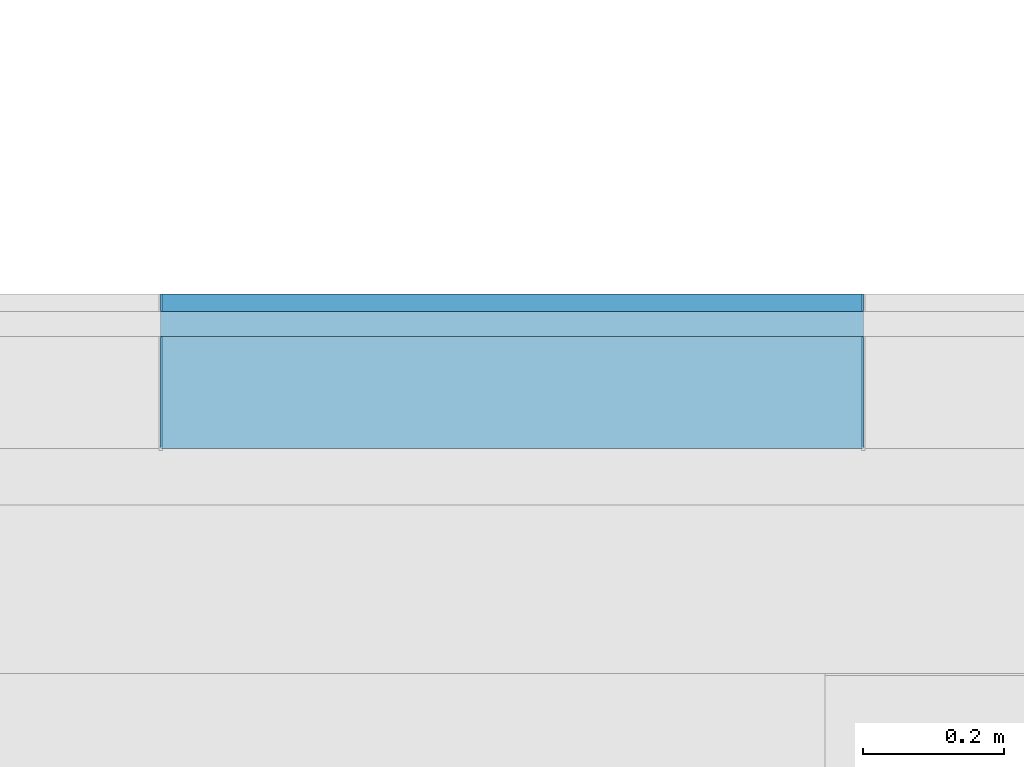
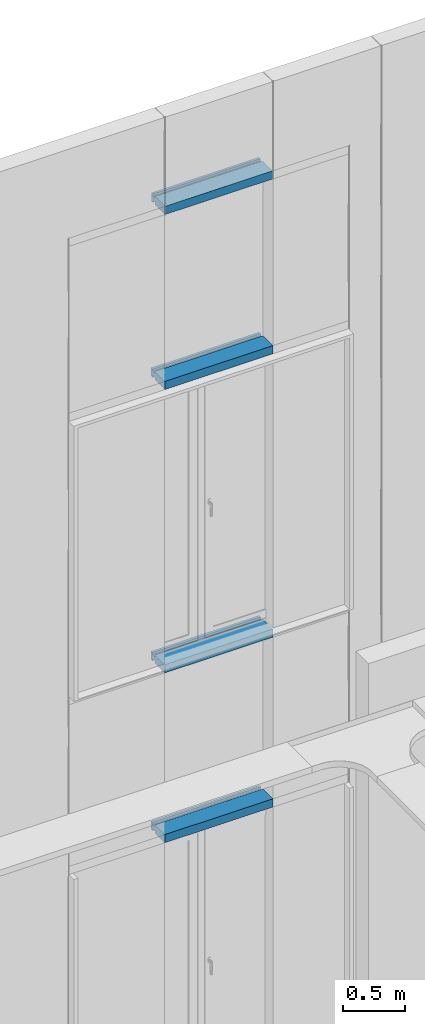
# One storey, part 86 of 302: 4 members, 1 element without a shape of its own.
"""IFC2X3 building model written with IfcOpenShell, lengths in metres."""

from ifc_helpers import new_model, entity, si_unit, converted_unit, derived_unit, direction, frame, origin, place, context, subcontext, project, spatial, polyline, outline, extrude, source, transform, mapped, material, type_object, type_shapes, element, aggregate, save


model = new_model("IFC2X3")

# Units and contexts
model_context = context("Model", 3, precision=1e-05, world=origin(), true_north=direction((6.12303176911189e-17, 1.0)))
body_context = subcontext(model_context, "Body", "Model", "MODEL_VIEW")
ifc_project = project(units=[si_unit("LENGTHUNIT", "METRE"), si_unit("AREAUNIT", "SQUARE_METRE"), si_unit("VOLUMEUNIT", "CUBIC_METRE"), converted_unit("PLANEANGLEUNIT", "DEGREE", entity("IfcRatioMeasure", 0.0174532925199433), si_unit("PLANEANGLEUNIT", "RADIAN"), dimensions=[0, 0, 0, 0, 0, 0, 0]), si_unit("MASSUNIT", "GRAM", prefix="KILO"), derived_unit("MASSDENSITYUNIT", [(si_unit("MASSUNIT", "GRAM", prefix="KILO"), 1), (si_unit("LENGTHUNIT", "METRE"), -3)]), derived_unit("MOMENTOFINERTIAUNIT", [(si_unit("LENGTHUNIT", "METRE"), 4)]), si_unit("TIMEUNIT", "SECOND"), si_unit("FREQUENCYUNIT", "HERTZ"), si_unit("THERMODYNAMICTEMPERATUREUNIT", "DEGREE_CELSIUS"), derived_unit("THERMALTRANSMITTANCEUNIT", [(si_unit("MASSUNIT", "GRAM", prefix="KILO"), 1), (si_unit("THERMODYNAMICTEMPERATUREUNIT", "KELVIN"), -1), (si_unit("TIMEUNIT", "SECOND"), -3)]), derived_unit("VOLUMETRICFLOWRATEUNIT", [(si_unit("LENGTHUNIT", "METRE"), 3), (si_unit("TIMEUNIT", "SECOND"), -1)]), si_unit("ELECTRICCURRENTUNIT", "AMPERE"), si_unit("ELECTRICVOLTAGEUNIT", "VOLT"), si_unit("POWERUNIT", "WATT"), si_unit("FORCEUNIT", "NEWTON", prefix="KILO"), si_unit("ILLUMINANCEUNIT", "LUX"), si_unit("LUMINOUSFLUXUNIT", "LUMEN"), si_unit("LUMINOUSINTENSITYUNIT", "CANDELA"), derived_unit("USERDEFINED", [(si_unit("MASSUNIT", "GRAM", prefix="KILO"), -1), (si_unit("LENGTHUNIT", "METRE"), -2), (si_unit("TIMEUNIT", "SECOND"), 3), (si_unit("LUMINOUSFLUXUNIT", "LUMEN"), 1)]), derived_unit("LINEARVELOCITYUNIT", [(si_unit("LENGTHUNIT", "METRE"), 1), (si_unit("TIMEUNIT", "SECOND"), -1)]), si_unit("PRESSUREUNIT", "PASCAL"), derived_unit("USERDEFINED", [(si_unit("LENGTHUNIT", "METRE"), -2), (si_unit("MASSUNIT", "GRAM", prefix="KILO"), 1), (si_unit("TIMEUNIT", "SECOND"), -2)]), derived_unit("LINEARFORCEUNIT", [(si_unit("MASSUNIT", "GRAM", prefix="KILO"), 1), (si_unit("LENGTHUNIT", "METRE"), 1), (si_unit("TIMEUNIT", "SECOND"), -2), (si_unit("LENGTHUNIT", "METRE"), -1)]), derived_unit("PLANARFORCEUNIT", [(si_unit("MASSUNIT", "GRAM", prefix="KILO"), 1), (si_unit("LENGTHUNIT", "METRE"), 1), (si_unit("TIMEUNIT", "SECOND"), -2), (si_unit("LENGTHUNIT", "METRE"), -2)])], contexts=[model_context])

# Site, building, storey
site_placement = place(None, origin())
site = spatial("IfcSite", under=ifc_project, at=site_placement, Name="Default", CompositionType="ELEMENT")
building_placement = place(site_placement, origin())
building = spatial("IfcBuilding", under=site, at=building_placement, CompositionType="ELEMENT")
storey_placement = place(building_placement, frame((0.0, 0.0, -1.3)))
storey = spatial("IfcBuildingStorey", under=building, at=storey_placement, Name="00_EG", CompositionType="ELEMENT", Elevation=-1.3)

# Curtain wall, members
curtain_wall_type = type_object("IfcCurtainWallType", Name="Fassade:Curtain Wall 1", PredefinedType="NOTDEFINED")
curtain_wall_placement = place(storey_placement, frame((0.0, 0.0, 1.3)))
curtain_wall = element("IfcCurtainWall", 1, at=curtain_wall_placement, inside=storey, type_object=curtain_wall_type, Name="Fassade:Curtain Wall 1", ObjectType="Fassade:Curtain Wall 1")
ifc_material = material(Name="Prepainted_Steel-ArcelorMittal_Construction_HAIRULTRA-35-CORAL-4309-[RAL_3000]")
member_type_1 = type_object("IfcMemberType", Name="Rectangular Mullion:Fassadenrahmen Typ 1", PredefinedType="MULLION", material=ifc_material)
shared_shape_1 = source(origin(), body_context, "Body", "SweptSolid", [
    extrude(outline(polyline([(-0.065, -0.04), (-0.04, -0.04), (-0.04, -0.02), (-0.00499999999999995, -0.02), (-0.00499999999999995, -0.04), (0.155, -0.04), (0.155, 0.04), (-0.00499999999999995, 0.04), (-0.00499999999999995, 0.02), (-0.04, 0.02), (-0.04, 0.04), (-0.065, 0.04), (-0.065, -0.04)])), frame((0.0, 0.155, -0.994999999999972), z_axis=(0.0, 0.0, 1.0), x_axis=(0.0, -1.0, 0.0)), (0.0, 0.0, 1.0), 0.99499999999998),
])
type_shapes(member_type_1, [shared_shape_1])
member_1_placement = place(storey_placement, frame((-221.607611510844, 45.578088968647, 10.2096475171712), z_axis=(-1.0, 0.0, 0.0), x_axis=(0.0, 0.0, 1.0)))
member_1 = element("IfcMember", 2, at=member_1_placement, type_object=member_type_1, material=ifc_material, Name="Rectangular Mullion:Fassadenrahmen Typ 1", ObjectType="Rectangular Mullion:Fassadenrahmen Typ 1", context=body_context, shape_type="MappedRepresentation", body=[
    mapped(shared_shape_1, transform((0.0, 0.0, 0.0), scale=1.0)),
])
member_type_2 = type_object("IfcMemberType", Name="Rectangular Mullion:Fassadenrahmen Typ 1", PredefinedType="MULLION", material=ifc_material)
shared_shape_2 = source(origin(), body_context, "Body", "SweptSolid", [
    extrude(outline(polyline([(-0.065, -0.04), (-0.04, -0.04), (-0.04, -0.02), (-0.00499999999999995, -0.02), (-0.00499999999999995, -0.04), (0.155, -0.04), (0.155, 0.04), (-0.00499999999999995, 0.04), (-0.00499999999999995, 0.02), (-0.04, 0.02), (-0.04, 0.04), (-0.065, 0.04), (-0.065, -0.04)])), frame((0.0, 0.155, -1.0), z_axis=(0.0, 0.0, 1.0), x_axis=(0.0, -1.0, 0.0)), (0.0, 0.0, 1.0), 0.999999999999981),
])
type_shapes(member_type_2, [shared_shape_2])
member_2_placement = place(storey_placement, frame((-221.610111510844, 45.578088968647, 4.06999999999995), z_axis=(-1.0, 0.0, 0.0), x_axis=(0.0, 0.0, 1.0)))
member_2 = element("IfcMember", 3, at=member_2_placement, type_object=member_type_2, material=ifc_material, Name="Rectangular Mullion:Fassadenrahmen Typ 1", ObjectType="Rectangular Mullion:Fassadenrahmen Typ 1", context=body_context, shape_type="MappedRepresentation", body=[
    mapped(shared_shape_2, transform((0.0, 0.0, 0.0), scale=1.0)),
])
member_3_placement = place(storey_placement, frame((-221.610111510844, 45.578088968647, 5.73), z_axis=(-1.0, 0.0, 0.0), x_axis=(0.0, 0.0, 1.0)))
member_3 = element("IfcMember", 4, at=member_3_placement, type_object=member_type_2, material=ifc_material, Name="Rectangular Mullion:Fassadenrahmen Typ 1", ObjectType="Rectangular Mullion:Fassadenrahmen Typ 1", context=body_context, shape_type="MappedRepresentation", body=[
    mapped(shared_shape_2, transform((0.0, 0.0, 0.0), scale=1.0)),
])
member_4_placement = place(storey_placement, frame((-221.610111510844, 45.578088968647, 8.49999999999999), z_axis=(-1.0, 0.0, 0.0), x_axis=(0.0, 0.0, 1.0)))
member_4 = element("IfcMember", 5, at=member_4_placement, type_object=member_type_2, material=ifc_material, Name="Rectangular Mullion:Fassadenrahmen Typ 1", ObjectType="Rectangular Mullion:Fassadenrahmen Typ 1", context=body_context, shape_type="MappedRepresentation", body=[
    mapped(shared_shape_2, transform((0.0, 0.0, 0.0), scale=1.0)),
])
aggregate(curtain_wall, [member_1, member_2, member_3, member_4])

save(model, "model.ifc")
